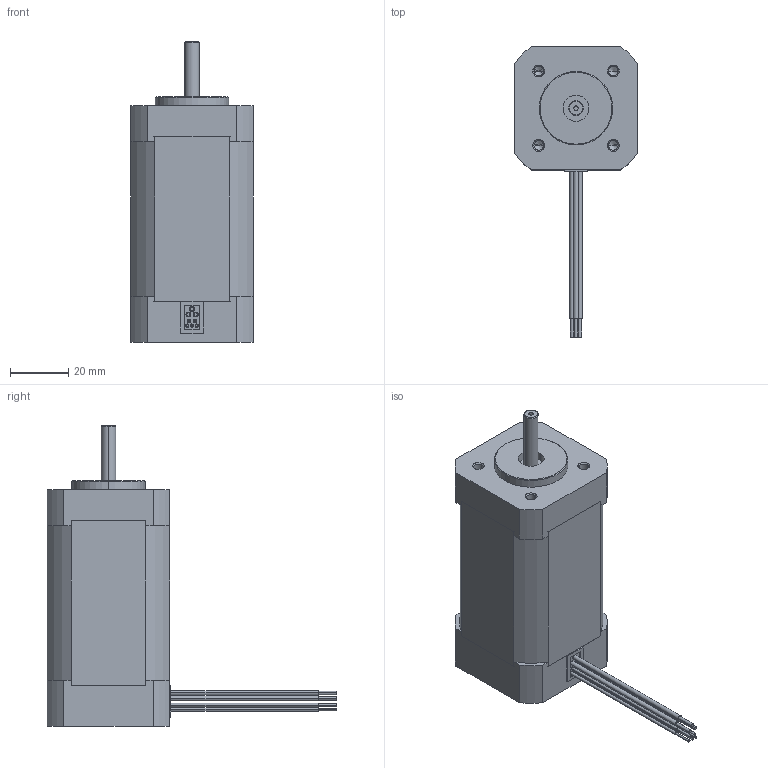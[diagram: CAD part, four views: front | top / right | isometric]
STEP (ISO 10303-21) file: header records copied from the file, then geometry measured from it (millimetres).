
FILE_DESCRIPTION (( 'STEP AP214' ), '1' );
FILE_NAME ('BLY173S.STEP', '2011-11-22T17:03:04', ( '' ), ( '' ), 'SwSTEP 2.0', 'SolidWorks 2011', '' );
FILE_SCHEMA (( 'AUTOMOTIVE_DESIGN' ));
Length unit declared in the file: inch
Products named in the file (1): BLY173S
Bounding box: 42.01 x 99.16 x 102.84 mm (x, y, z)
Volume: 136880 mm3; surface area: 19400.5 mm2
Topology: 1 solids, 1 shells, 228 faces, 542 edges, 350 vertices
Faces by surface type: plane 116, cylinder 90, cone 22
Entity records: 8265 total; most frequent: DIRECTION 1186, CARTESIAN_POINT 1113, ORIENTED_EDGE 1068, EDGE_CURVE 534, AXIS2_PLACEMENT_3D 423, VERTEX_POINT 350, LINE 340, VECTOR 340
